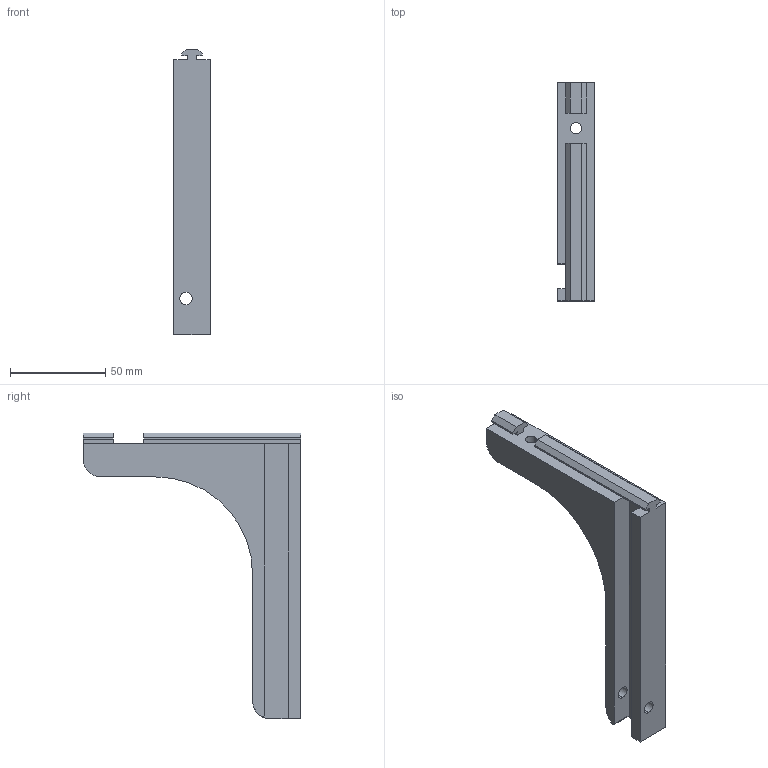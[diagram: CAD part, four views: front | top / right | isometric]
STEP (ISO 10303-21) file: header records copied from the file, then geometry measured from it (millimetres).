
FILE_DESCRIPTION (( 'STEP AP203' ), '1' );
FILE_NAME ('Phils Dust Shoe Arm - 20mm EXTRU - LEFT.STEP', '2018-02-06T16:34:25', ( '' ), ( '' ), 'SwSTEP 2.0', 'SolidWorks 2015', '' );
FILE_SCHEMA (( 'CONFIG_CONTROL_DESIGN' ));
Length unit declared in the file: inch
Products named in the file (1): Phils Dust Shoe Arm - 20mm EXTRU - LEFT
Bounding box: 19.05 x 114.3 x 150.01 mm (x, y, z)
Volume: 91596 mm3; surface area: 26357.3 mm2
Topology: 1 solids, 1 shells, 45 faces, 127 edges, 84 vertices
Faces by surface type: plane 34, cylinder 11
Entity records: 1539 total; most frequent: CARTESIAN_POINT 257, ORIENTED_EDGE 254, DIRECTION 242, EDGE_CURVE 127, VECTOR 104, LINE 104, VERTEX_POINT 84, AXIS2_PLACEMENT_3D 69
